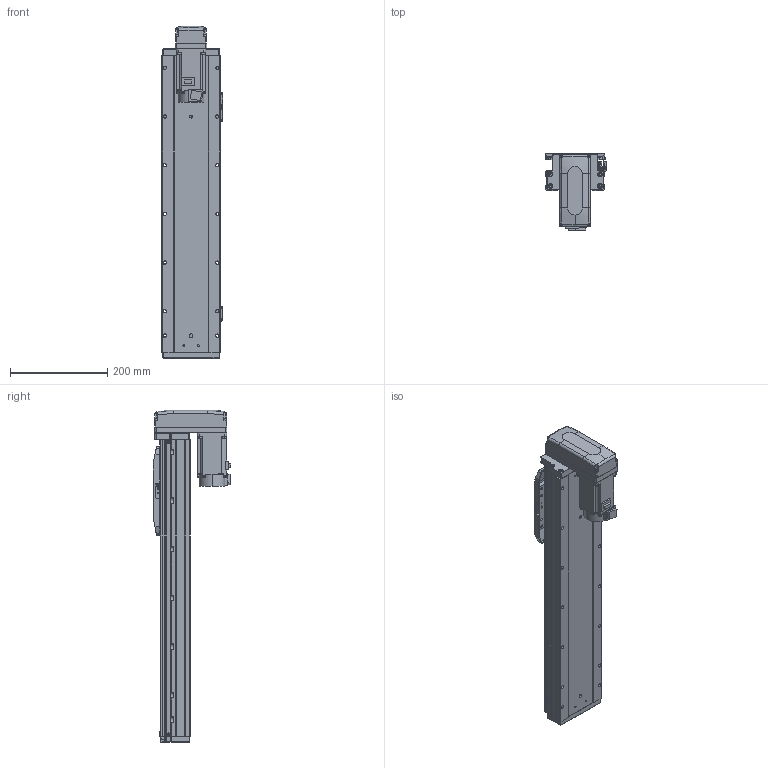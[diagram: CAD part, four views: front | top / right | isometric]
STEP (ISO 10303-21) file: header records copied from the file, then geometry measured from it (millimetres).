
FILE_DESCRIPTION (( 'STEP AP203' ), '1' );
FILE_NAME ('GTH12-400-BM-M40-C4.step', '2022-09-29T02:01:11', ( '微软用户' ), ( '微软中国' ), 'SwSTEP 2.0', 'SolidWorks 2020', '' );
FILE_SCHEMA (( 'CONFIG_CONTROL_DESIGN' ));
Length unit declared in the file: millimetre
Products named in the file (18): GTH120-001_400; GBT 70.3-M3℅8; hg-kn43j_-s100_; GTH120-003; GTH80-022; CTHA86-033_M40B; GTH120-006; GTH80-028; GTH120-027-1_GTH120-027-2; GTH120-004; GTH50-023; GTH12-400-BM-M40-C4; GTH120-013; GTH50-024; GBT 70.1-M3℅6; GBT96.1-2002 3×0.8; GBT 70.1-M5×16; BTH-M3X5X6
Assembly tree (59 placements, depth 2):
  GTH12-400-BM-M40-C4
    GTH120-001_400
    GTH120-003
    GTH120-006
    GTH120-004
    GTH120-013
    GBT 70.1-M3℅6  x14
    GBT 70.1-M5×16  x10
    GBT 70.3-M3℅8  x4
    GTH80-022
    GTH80-028  x2
    GTH50-023  x3
    GTH50-024  x3
    GBT96.1-2002 3×0.8  x6
    BTH-M3X5X6  x8
    hg-kn43j_-s100_
    CTHA86-033_M40B
    GTH120-027-1_GTH120-027-2
Bounding box: 125.7 x 159.8 x 682 mm (x, y, z)
Volume: 5231592.6 mm3; surface area: 523948.9 mm2
Topology: 61 solids, 61 shells, 2405 faces, 5594 edges, 3431 vertices
Faces by surface type: plane 1246, cylinder 687, cone 284, torus 174, sphere 8, bspline 6
Entity records: 44424 total; most frequent: CARTESIAN_POINT 7560, DIRECTION 7326, ORIENTED_EDGE 6798, EDGE_CURVE 3399, AXIS2_PLACEMENT_3D 2562, VECTOR 2202, LINE 2202, VERTEX_POINT 2152
